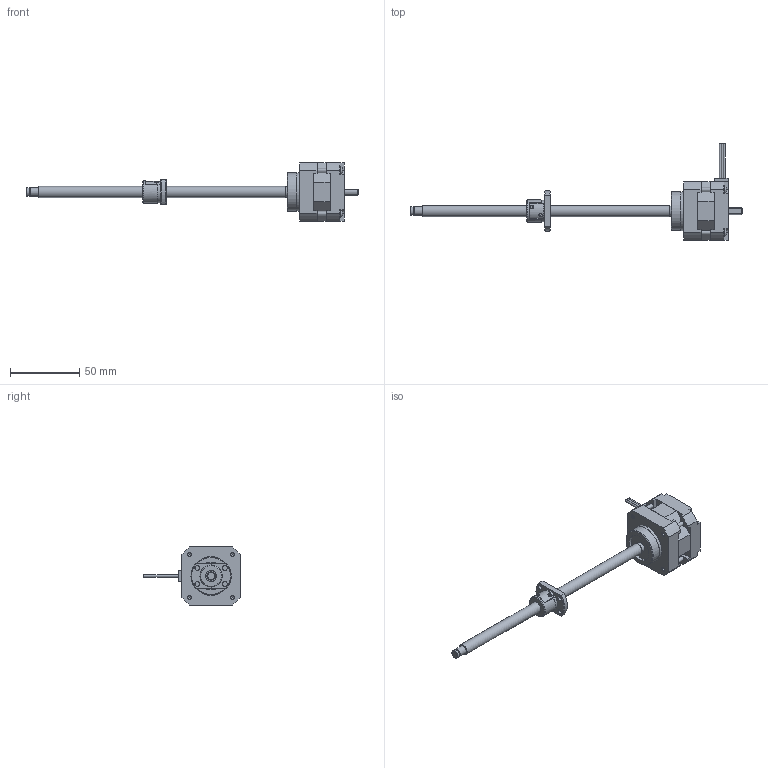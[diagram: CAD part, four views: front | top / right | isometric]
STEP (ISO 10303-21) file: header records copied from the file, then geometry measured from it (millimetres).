
FILE_DESCRIPTION( ( 'STEP AP214' ), ' ' );
FILE_NAME( 'p:/temp/worker_1/3260_1020/app_90_12017090514300875304287260eae72_000000_00_00_000000/format_0/TMB0801(75).stp', '2017-09-05T12:30:09', ( '' ), ( '' ), ' ', 'PARTsolutions', ' ' );
FILE_SCHEMA( ( 'AUTOMOTIVE_DESIGN { 1 0 10303 214 1 1 1 1 }' ) );
Length unit declared in the file: millimetre
Products named in the file (3): TMB0801(75); _TMB0801 (0)motor; _TMB0801 (75)nut
Assembly tree (2 placements, depth 2):
  TMB0801(75)
    _TMB0801 (0)motor
    _TMB0801 (75)nut
Bounding box: 239 x 69.5 x 42 mm (x, y, z)
Volume: 68980.6 mm3; surface area: 18412.7 mm2
Topology: 2 solids, 2 shells, 229 faces, 611 edges, 407 vertices
Faces by surface type: plane 153, cylinder 56, cone 16, bspline 4
Full cylindrical faces by diameter (mm): 1.5 x3, 2.459 x4, 2.5 x2, 3 x4, 3.4 x4, 5.5 x4, 5.7 x1, 6 x2, 7.3 x1, 8 x2, 15.5 x1, 16 x1, 20 x1, 27.5 x1, 28 x1
Entity records: 8905 total; most frequent: CARTESIAN_POINT 1619, ORIENTED_EDGE 1078, DIRECTION 1059, EDGE_CURVE 539, VERTEX_POINT 386, LINE 355, VECTOR 355, AXIS2_PLACEMENT_3D 352
